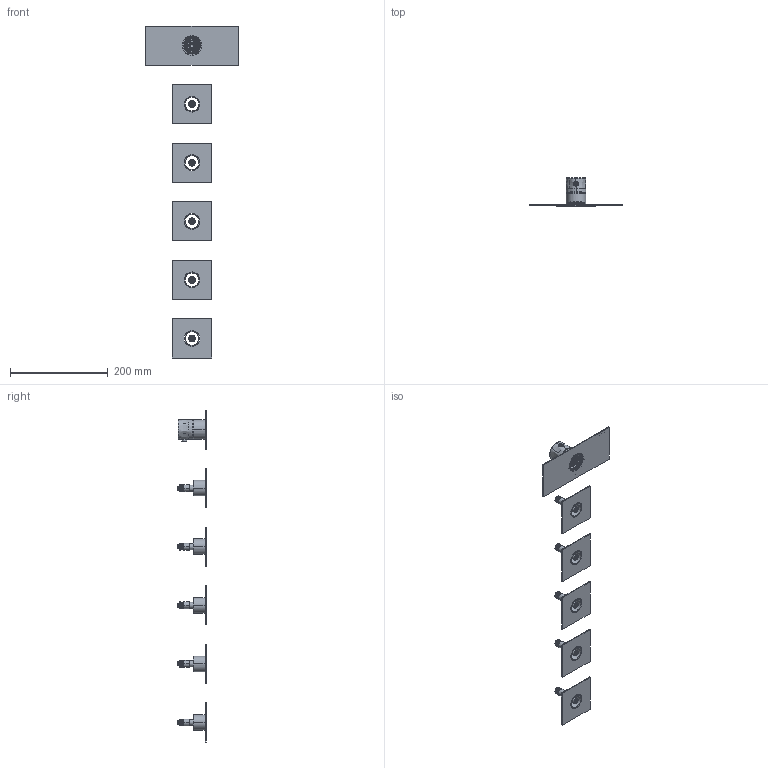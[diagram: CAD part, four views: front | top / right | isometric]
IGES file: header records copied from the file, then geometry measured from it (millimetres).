
Start section:  PTC IGES file: 3d_sw0001.igs
Global section: file name: 3d_sw0001.igs; native system: Creo Parametric by PTC Inc.; preprocessor: 2025443; author: volponeff; organization: Unknown; date: 20260518.110755; units: millimetre
Bounding box: 190 x 58.1 x 680 mm (x, y, z)
Surface area: 163302.7 mm2 (no closed solid volume)
Topology: 0 solids, 0 shells, 2046 faces, 10350 edges, 10345 vertices
Faces by surface type: bspline 1255, revolution 791
